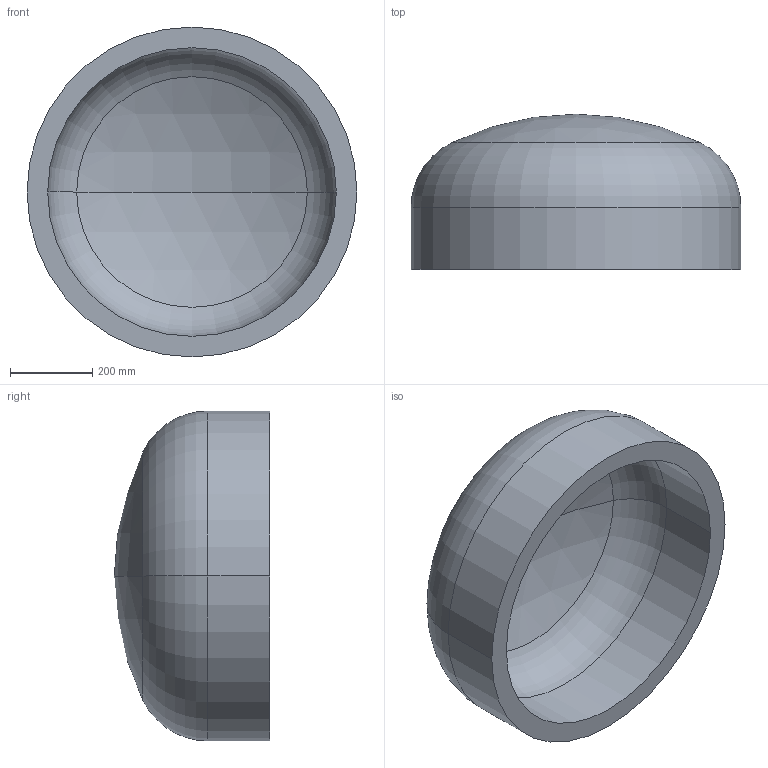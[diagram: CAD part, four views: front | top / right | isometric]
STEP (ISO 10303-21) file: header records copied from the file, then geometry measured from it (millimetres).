
FILE_DESCRIPTION (( 'STEP AP203' ), '1' );
FILE_NAME ('DIN 28013 Korbbogenform_-_Boden DIN 28013 - 800 x 150 - I - s=50.step', '2016-07-01T08:18:23', ( '' ), ( '' ), 'SwSTEP 2.0', 'SolidWorks 2013', '' );
FILE_SCHEMA (( 'CONFIG_CONTROL_DESIGN' ));
Length unit declared in the file: millimetre
Products named in the file (1): DIN 28013 Korbbogenform_-_Boden DIN 28013 - 800 x 150 - I - s=50
Bounding box: 800 x 376.75 x 800 mm (x, y, z)
Volume: 49916649.8 mm3; surface area: 2119711.4 mm2
Topology: 1 solids, 1 shells, 13 faces, 24 edges, 14 vertices
Faces by surface type: torus 4, cylinder 4, sphere 4, plane 1
Entity records: 407 total; most frequent: DIRECTION 72, CARTESIAN_POINT 52, ORIENTED_EDGE 48, AXIS2_PLACEMENT_3D 34, EDGE_CURVE 24, CIRCLE 20, VERTEX_POINT 14, EDGE_LOOP 14
